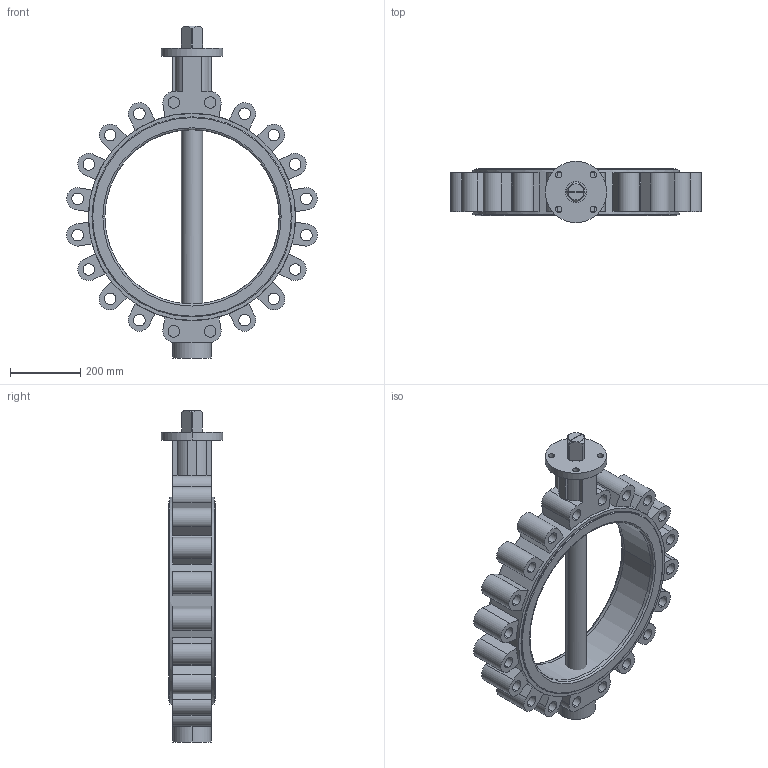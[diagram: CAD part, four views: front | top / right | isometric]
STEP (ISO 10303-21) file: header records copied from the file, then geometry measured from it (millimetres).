
FILE_DESCRIPTION (( 'STEP AP203' ), '1' );
FILE_NAME ('2502 LT型中线衬胶带销 无头蝶阀 DN500 PN25 CD0309398.STEP', '2026-05-29T07:30:03', ( '' ), ( '' ), 'SwSTEP 2.0', 'SolidWorks 2021', '' );
FILE_SCHEMA (( 'CONFIG_CONTROL_DESIGN' ));
Length unit declared in the file: millimetre
Products named in the file (4): GALA-D500-04AC-01; 2502 LT型中线衬胶带销 无头蝶阀 DN500 PN25 CD0309398; 中线通轴带销衬胶蝶阀阀轴-DN500-GALA-D500-03ZC-01; GALA-D500-01LC25-01
Assembly tree (3 placements, depth 2):
  2502 LT型中线衬胶带销 无头蝶阀 DN500 PN25 CD0309398
    GALA-D500-01LC25-01
    GALA-D500-04AC-01
    中线通轴带销衬胶蝶阀阀轴-DN500-GALA-D500-03ZC-01
Bounding box: 714.86 x 175 x 946 mm (x, y, z)
Volume: 22257570.8 mm3; surface area: 2041157.5 mm2
Topology: 3 solids, 3 shells, 272 faces, 670 edges, 431 vertices
Faces by surface type: plane 121, cylinder 110, cone 23, torus 18
Entity records: 8757 total; most frequent: DIRECTION 1543, CARTESIAN_POINT 1535, ORIENTED_EDGE 1340, EDGE_CURVE 670, AXIS2_PLACEMENT_3D 611, VERTEX_POINT 431, EDGE_LOOP 343, CIRCLE 333
